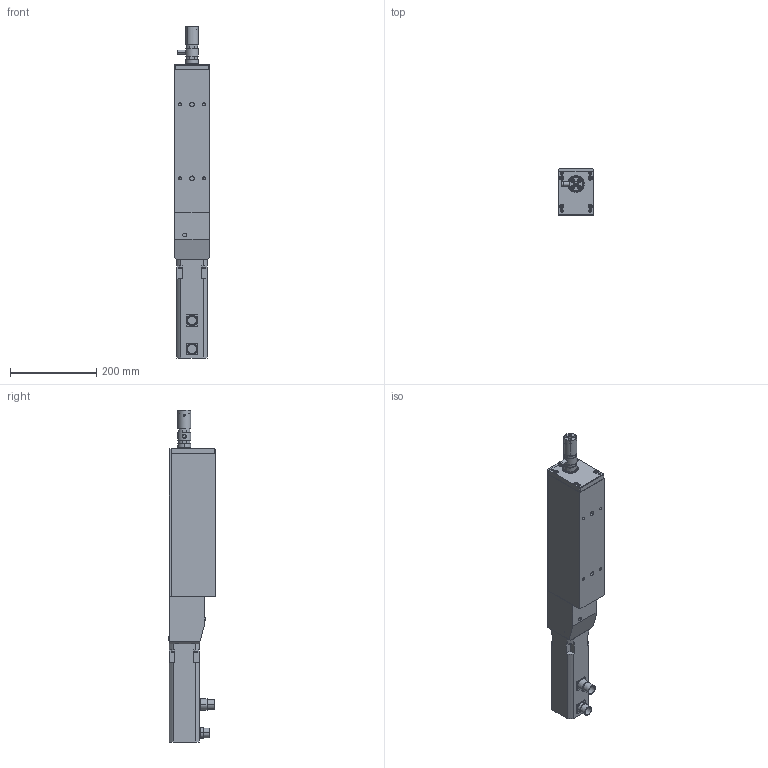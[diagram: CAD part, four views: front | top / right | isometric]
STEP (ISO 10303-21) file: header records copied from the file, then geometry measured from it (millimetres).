
FILE_DESCRIPTION (( 'STEP AP203' ), '1' );
FILE_NAME ('PR5IP030-020-025N.STEP', '2020-07-17T09:46:45', ( '' ), ( '' ), 'SwSTEP 2.0', 'SolidWorks 2016', '' );
FILE_SCHEMA (( 'CONFIG_CONTROL_DESIGN' ));
Length unit declared in the file: millimetre
Products named in the file (1): PR5IP030-020-025N
Bounding box: 80 x 108 x 772 mm (x, y, z)
Volume: 3580608.9 mm3; surface area: 532818.2 mm2
Topology: 38 solids, 38 shells, 1314 faces, 3037 edges, 1785 vertices
Faces by surface type: plane 519, cylinder 471, cone 258, torus 66
Entity records: 37028 total; most frequent: CARTESIAN_POINT 6925, DIRECTION 6745, ORIENTED_EDGE 5742, EDGE_CURVE 2871, AXIS2_PLACEMENT_3D 2607, VERTEX_POINT 1785, EDGE_LOOP 1588, LINE 1531
